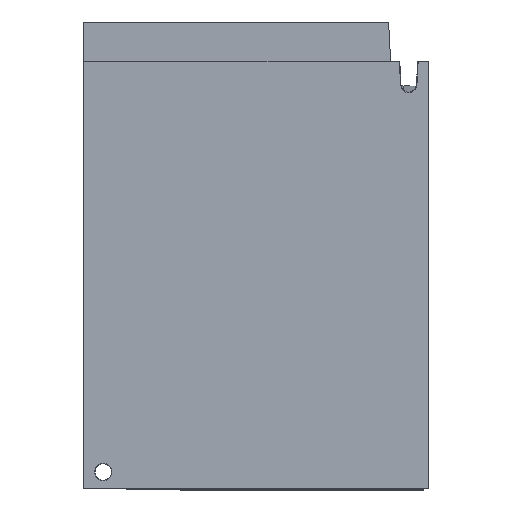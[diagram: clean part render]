
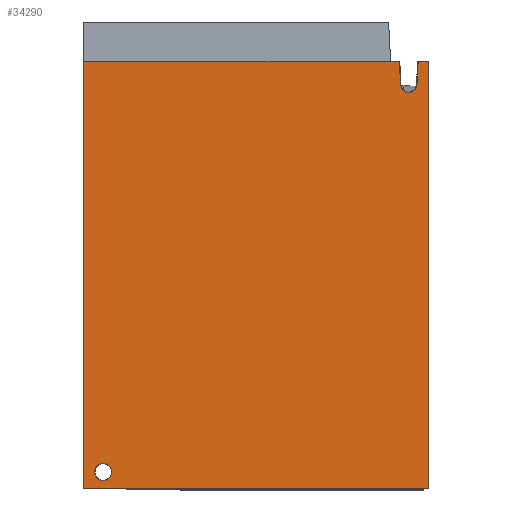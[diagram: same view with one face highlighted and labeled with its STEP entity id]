
A CAD part, front view. The second image highlights one B-rep face of the part: STEP entity #34290.
In plain terms, the highlighted planar face has unit normal (0, -1, 0).
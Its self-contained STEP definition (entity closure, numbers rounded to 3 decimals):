
#604=DIRECTION('',(-1.,0.,0.));
#605=VECTOR('',#604,105.);
#606=CARTESIAN_POINT('',(52.5,0.,0.));
#607=LINE('',#606,#605);
#938=DIRECTION('',(0.,0.,-1.));
#939=VECTOR('',#938,129.5);
#940=CARTESIAN_POINT('',(52.5,0.,129.5));
#941=LINE('',#940,#939);
#6222=DIRECTION('',(1.,0.,0.));
#6223=VECTOR('',#6222,2.633);
#6224=CARTESIAN_POINT('',(49.367,0.,130.));
#6225=LINE('',#6224,#6223);
#6256=DIRECTION('',(-0.052,0.,0.999));
#6257=VECTOR('',#6256,7.01);
#6258=CARTESIAN_POINT('',(44.,0.,123.));
#6259=LINE('',#6258,#6257);
#6260=CARTESIAN_POINT('',(46.5,0.,123.));
#6261=DIRECTION('',(0.,1.,0.));
#6262=DIRECTION('',(1.,0.,0.));
#6263=AXIS2_PLACEMENT_3D('',#6260,#6261,#6262);
#6265=DIRECTION('',(-0.052,0.,-0.999));
#6266=VECTOR('',#6265,7.01);
#6267=CARTESIAN_POINT('',(49.367,0.,130.));
#6268=LINE('',#6267,#6266);
#6269=CARTESIAN_POINT('',(52.,0.,129.5));
#6270=DIRECTION('',(0.,-1.,0.));
#6271=DIRECTION('',(1.,0.,0.));
#6272=AXIS2_PLACEMENT_3D('',#6269,#6270,#6271);
#6274=CARTESIAN_POINT('',(-46.5,0.,5.));
#6275=DIRECTION('',(0.,1.,0.));
#6276=DIRECTION('',(-1.,0.,0.));
#6277=AXIS2_PLACEMENT_3D('',#6274,#6275,#6276);
#6279=CARTESIAN_POINT('',(-46.5,0.,5.));
#6280=DIRECTION('',(0.,1.,0.));
#6281=DIRECTION('',(0.,0.,-1.));
#6282=AXIS2_PLACEMENT_3D('',#6279,#6280,#6281);
#6284=CARTESIAN_POINT('',(-46.5,0.,5.));
#6285=DIRECTION('',(0.,1.,0.));
#6286=DIRECTION('',(1.,0.,0.));
#6287=AXIS2_PLACEMENT_3D('',#6284,#6285,#6286);
#6339=DIRECTION('',(0.,0.,1.));
#6340=VECTOR('',#6339,130.);
#6341=CARTESIAN_POINT('',(-52.5,0.,0.));
#6342=LINE('',#6341,#6340);
#10103=DIRECTION('',(1.,0.,0.));
#10104=VECTOR('',#10103,96.133);
#10105=CARTESIAN_POINT('',(-52.5,0.,130.));
#10106=LINE('',#10105,#10104);
#18979=CARTESIAN_POINT('',(52.5,0.,0.));
#18981=VERTEX_POINT('',#18979);
#18983=CARTESIAN_POINT('',(-52.5,0.,0.));
#18984=VERTEX_POINT('',#18983);
#19170=CARTESIAN_POINT('',(-52.5,0.,130.));
#19171=VERTEX_POINT('',#19170);
#19172=CARTESIAN_POINT('',(43.633,0.,130.));
#19173=VERTEX_POINT('',#19172);
#19222=CARTESIAN_POINT('',(-43.86,0.,5.));
#19223=CARTESIAN_POINT('',(-46.5,0.,2.36));
#19224=VERTEX_POINT('',#19222);
#19225=VERTEX_POINT('',#19223);
#19542=CARTESIAN_POINT('',(49.367,0.,130.));
#19543=VERTEX_POINT('',#19542);
#19544=CARTESIAN_POINT('',(52.,0.,130.));
#19545=VERTEX_POINT('',#19544);
#19546=CARTESIAN_POINT('',(52.5,0.,129.5));
#19547=VERTEX_POINT('',#19546);
#19760=CARTESIAN_POINT('',(49.,0.,
123.));
#19761=VERTEX_POINT('',#19760);
#19762=CARTESIAN_POINT('',(44.,0.,123.));
#19763=VERTEX_POINT('',#19762);
#23297=CARTESIAN_POINT('',(-49.14,0.,
5.));
#23299=VERTEX_POINT('',#23297);
#34263=CARTESIAN_POINT('',(-52.5,0.,0.));
#34264=DIRECTION('',(0.,-1.,0.));
#34265=DIRECTION('',(1.,0.,0.));
#34266=AXIS2_PLACEMENT_3D('',#34263,#34264,#34265);
#34267=PLANE('',#34266);
#34268=ORIENTED_EDGE('',*,*,#24514,.T.);
#34270=ORIENTED_EDGE('',*,*,#34269,.T.);
#34272=ORIENTED_EDGE('',*,*,#34271,.T.);
#34274=ORIENTED_EDGE('',*,*,#34273,.F.);
#34275=ORIENTED_EDGE('',*,*,#34247,.F.);
#34276=ORIENTED_EDGE('',*,*,#34229,.F.);
#34277=ORIENTED_EDGE('',*,*,#34208,.T.);
#34278=ORIENTED_EDGE('',*,*,#34187,.F.);
#34279=ORIENTED_EDGE('',*,*,#24728,.T.);
#34280=EDGE_LOOP('',(#34268,#34270,#34272,#34274,#34275,#34276,#34277,#34278,
#34279));
#34281=FACE_OUTER_BOUND('',#34280,.F.);
#34283=ORIENTED_EDGE('',*,*,#34282,.F.);
#34285=ORIENTED_EDGE('',*,*,#34284,.F.);
#34287=ORIENTED_EDGE('',*,*,#34286,.F.);
#34288=EDGE_LOOP('',(#34283,#34285,#34287));
#34289=FACE_BOUND('',#34288,.F.);
#6264=CIRCLE('',#6263,2.5);
#6273=CIRCLE('',#6272,0.5);
#6278=CIRCLE('',#6277,2.64);
#6283=CIRCLE('',#6282,2.64);
#6288=CIRCLE('',#6287,2.64);
#24514=EDGE_CURVE('',#18981,#18984,#607,.T.);
#24728=EDGE_CURVE('',#19547,#18981,#941,.T.);
#34187=EDGE_CURVE('',#19547,#19545,#6273,.T.);
#34208=EDGE_CURVE('',#19543,#19545,#6225,.T.);
#34229=EDGE_CURVE('',#19543,#19761,#6268,.T.);
#34247=EDGE_CURVE('',#19761,#19763,#6264,.T.);
#34269=EDGE_CURVE('',#18984,#19171,#6342,.T.);
#34271=EDGE_CURVE('',#19171,#19173,#10106,.T.);
#34273=EDGE_CURVE('',#19763,#19173,#6259,.T.);
#34282=EDGE_CURVE('',#23299,#19224,#6278,.T.);
#34284=EDGE_CURVE('',#19225,#23299,#6283,.T.);
#34286=EDGE_CURVE('',#19224,#19225,#6288,.T.);
#34290=ADVANCED_FACE('',(#34281,#34289),#34267,.T.);
